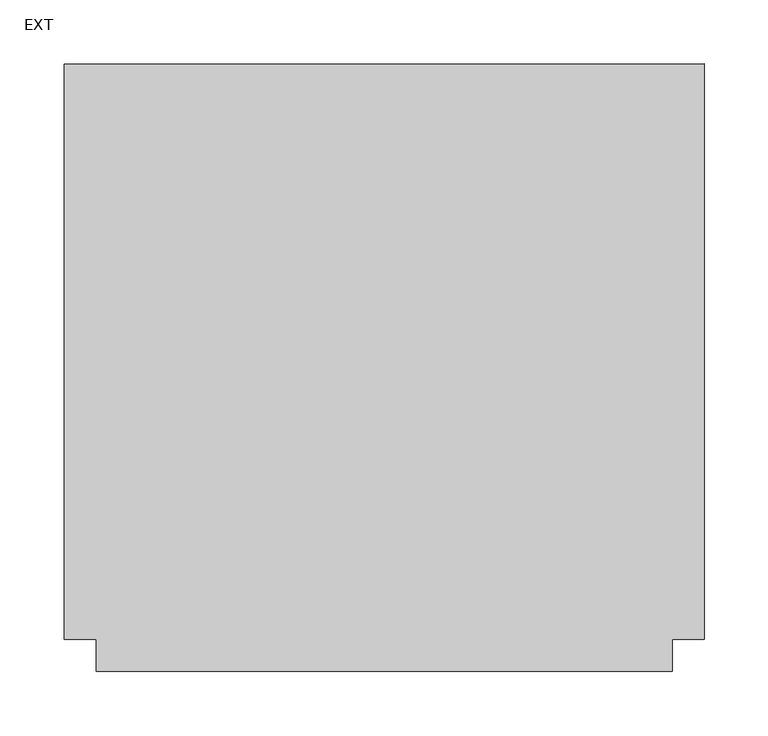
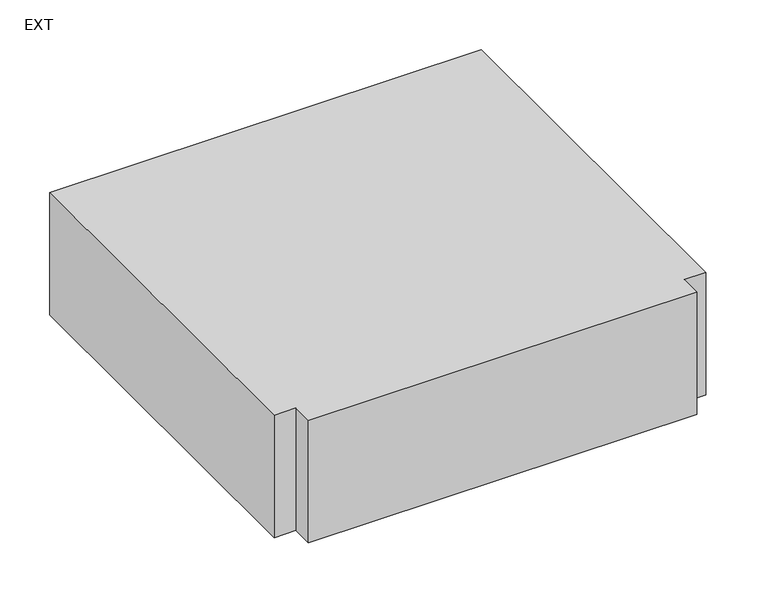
"""IFC4 building model written with IfcOpenShell, lengths in millimetres: duct fitting geometry, M_Te rectangular : EXT."""

from ifc_helpers import new_model, si_unit, frame, origin, place, context, project, spatial, polyline, outline, extrude, source, transform, mapped, element, save


def ext_fd4e5c35(model_context):
    return source(origin(), model_context, "Body", "SweptSolid", [
        extrude(outline(polyline([(-250.0, -225.0), (-250.0, 225.0), (250.0, 225.0), (250.0, -225.0), (225.0, -225.0), (225.0, -250.0), (-225.0, -250.0), (-225.0, -225.0), (-250.0, -225.0)])), frame((0.0, 0.0, -75.0), z_axis=(0.0, 0.0, 1.0), x_axis=(1.0, 0.0, 0.0)), (0.0, 0.0, 1.0), 150.0),
    ])


if __name__ == "__main__":
    model = new_model("IFC4")
    model_context = context("Model", 3, world=origin())
    ifc_project = project(units=[si_unit("LENGTHUNIT", "METRE", prefix="MILLI")], contexts=[model_context])
    site = spatial("IfcSite", under=ifc_project)
    building = spatial("IfcBuilding", under=site)
    placement = place(None, origin())
    ext_shape = ext_fd4e5c35(model_context)
    element("IfcDuctFitting", 1, ObjectType="M_Te rectangular : EXT", at=placement, inside=building, context=model_context, shape_type="MappedRepresentation", body=[
        mapped(ext_shape, transform((0.0, 0.0, 0.0), x_axis=(1.0, 0.0, 0.0), y_axis=(0.0, 1.0, 0.0), z_axis=(0.0, 0.0, 1.0))),
    ])
    save(model, "model.ifc")
